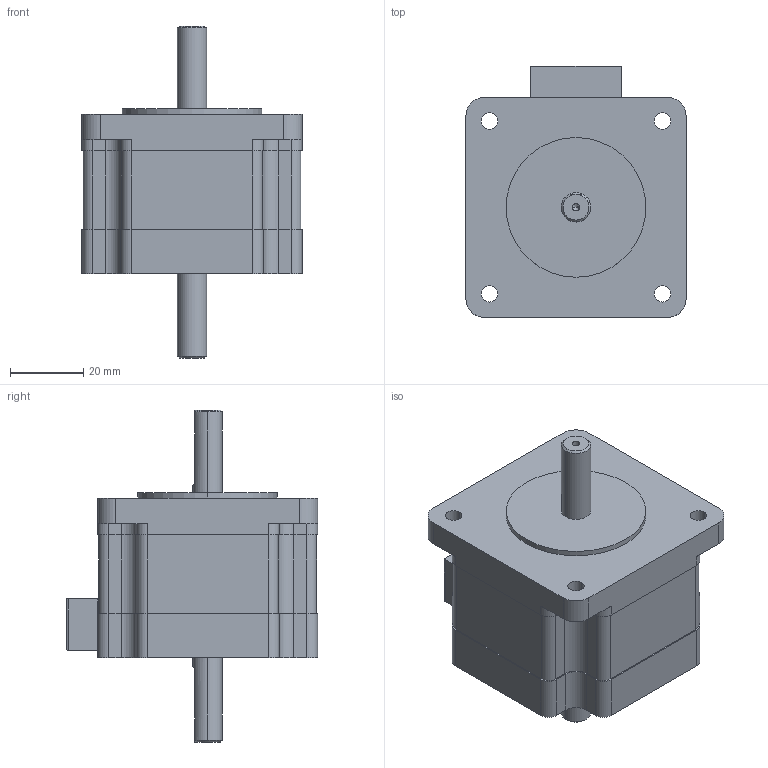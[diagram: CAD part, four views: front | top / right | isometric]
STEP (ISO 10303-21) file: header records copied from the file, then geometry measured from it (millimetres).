
FILE_DESCRIPTION (( 'STEP AP214' ), '1' );
FILE_NAME ('TS3606N11E2.STEP', '2016-09-09T03:39:42', ( 'hoho' ), ( '' ), 'SwSTEP 2.0', 'SolidWorks 2013', '' );
FILE_SCHEMA (( 'AUTOMOTIVE_DESIGN' ));
Length unit declared in the file: millimetre
Products named in the file (1): TS3606N11E2
Bounding box: 60 x 68.5 x 90.5 mm (x, y, z)
Volume: 145299.7 mm3; surface area: 19474.8 mm2
Topology: 1 solids, 1 shells, 124 faces, 339 edges, 221 vertices
Faces by surface type: cylinder 59, plane 57, cone 8
Entity records: 4265 total; most frequent: CARTESIAN_POINT 719, DIRECTION 701, ORIENTED_EDGE 674, EDGE_CURVE 337, AXIS2_PLACEMENT_3D 247, VERTEX_POINT 221, VECTOR 207, LINE 207
